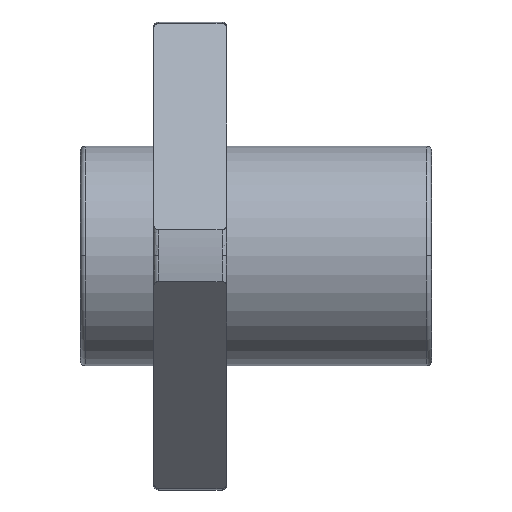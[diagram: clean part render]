
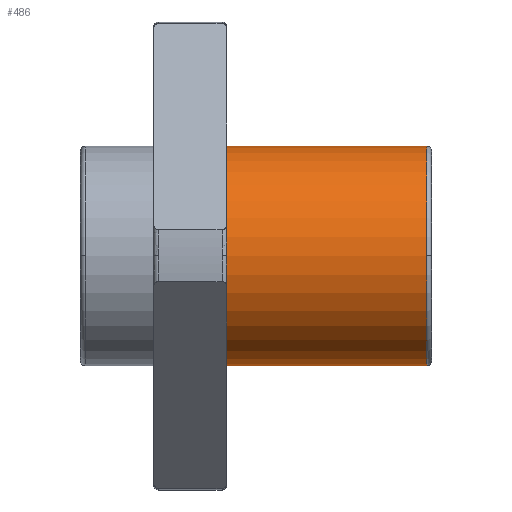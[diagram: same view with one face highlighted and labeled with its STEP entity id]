
A CAD part, top view. The second image highlights one B-rep face of the part: STEP entity #486.
In plain terms, the highlighted cylindrical face has radius 7.5 mm (diameter 15 mm), a partial arc.
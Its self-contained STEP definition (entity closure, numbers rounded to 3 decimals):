
#335 = TOROIDAL_SURFACE('',#336,7.18,0.32);
#336 = AXIS2_PLACEMENT_3D('',#337,#338,#339);
#337 = CARTESIAN_POINT('',(23.68,0.,0.));
#338 = DIRECTION('',(1.,0.,0.));
#339 = DIRECTION('',(0.,0.,-1.));
#347 = TOROIDAL_SURFACE('',#348,7.18,0.32);
#348 = AXIS2_PLACEMENT_3D('',#349,#350,#351);
#349 = CARTESIAN_POINT('',(23.68,0.,0.));
#350 = DIRECTION('',(1.,0.,0.));
#351 = DIRECTION('',(0.,0.,-1.));
#360 = VERTEX_POINT('',#361);
#361 = CARTESIAN_POINT('',(23.68,7.5,0.));
#376 = CYLINDRICAL_SURFACE('',#377,7.5);
#377 = AXIS2_PLACEMENT_3D('',#378,#379,#380);
#378 = CARTESIAN_POINT('',(16.84,0.,0.));
#379 = DIRECTION('',(1.,0.,0.));
#380 = DIRECTION('',(-0.,1.,0.));
#388 = EDGE_CURVE('',#360,#389,#391,.T.);
#389 = VERTEX_POINT('',#390);
#390 = CARTESIAN_POINT('',(23.68,0.,7.5));
#391 = SURFACE_CURVE('',#392,(#397,#404),.PCURVE_S1.);
#392 = CIRCLE('',#393,7.5);
#393 = AXIS2_PLACEMENT_3D('',#394,#395,#396);
#394 = CARTESIAN_POINT('',(23.68,0.,0.));
#395 = DIRECTION('',(1.,0.,0.));
#396 = DIRECTION('',(-0.,1.,0.));
#397 = PCURVE('',#335,#398);
#398 = DEFINITIONAL_REPRESENTATION('',(#399),#403);
#399 = LINE('',#400,#401);
#400 = CARTESIAN_POINT('',(1.571,0.));
#401 = VECTOR('',#402,1.);
#402 = DIRECTION('',(1.,0.));
#403 = ( GEOMETRIC_REPRESENTATION_CONTEXT(2) 
PARAMETRIC_REPRESENTATION_CONTEXT() REPRESENTATION_CONTEXT('2D SPACE',''
  ) );
#404 = PCURVE('',#405,#410);
#405 = CYLINDRICAL_SURFACE('',#406,7.5);
#406 = AXIS2_PLACEMENT_3D('',#407,#408,#409);
#407 = CARTESIAN_POINT('',(16.84,0.,0.));
#408 = DIRECTION('',(1.,0.,0.));
#409 = DIRECTION('',(-0.,1.,0.));
#410 = DEFINITIONAL_REPRESENTATION('',(#411),#415);
#411 = LINE('',#412,#413);
#412 = CARTESIAN_POINT('',(0.,6.84));
#413 = VECTOR('',#414,1.);
#414 = DIRECTION('',(1.,0.));
#415 = ( GEOMETRIC_REPRESENTATION_CONTEXT(2) 
PARAMETRIC_REPRESENTATION_CONTEXT() REPRESENTATION_CONTEXT('2D SPACE',''
  ) );
#486 = ADVANCED_FACE('',(#487),#405,.T.);
#487 = FACE_BOUND('',#488,.T.);
#488 = EDGE_LOOP('',(#489,#512,#541,#564,#586));
#489 = ORIENTED_EDGE('',*,*,#490,.F.);
#490 = EDGE_CURVE('',#491,#360,#493,.T.);
#491 = VERTEX_POINT('',#492);
#492 = CARTESIAN_POINT('',(10.,7.5,0.));
#493 = SURFACE_CURVE('',#494,(#498,#505),.PCURVE_S1.);
#494 = LINE('',#495,#496);
#495 = CARTESIAN_POINT('',(16.84,7.5,0.));
#496 = VECTOR('',#497,1.);
#497 = DIRECTION('',(1.,0.,0.));
#498 = PCURVE('',#405,#499);
#499 = DEFINITIONAL_REPRESENTATION('',(#500),#504);
#500 = LINE('',#501,#502);
#501 = CARTESIAN_POINT('',(0.,0.));
#502 = VECTOR('',#503,1.);
#503 = DIRECTION('',(0.,1.));
#504 = ( GEOMETRIC_REPRESENTATION_CONTEXT(2) 
PARAMETRIC_REPRESENTATION_CONTEXT() REPRESENTATION_CONTEXT('2D SPACE',''
  ) );
#505 = PCURVE('',#376,#506);
#506 = DEFINITIONAL_REPRESENTATION('',(#507),#511);
#507 = LINE('',#508,#509);
#508 = CARTESIAN_POINT('',(6.283,0.));
#509 = VECTOR('',#510,1.);
#510 = DIRECTION('',(0.,1.));
#511 = ( GEOMETRIC_REPRESENTATION_CONTEXT(2) 
PARAMETRIC_REPRESENTATION_CONTEXT() REPRESENTATION_CONTEXT('2D SPACE',''
  ) );
#512 = ORIENTED_EDGE('',*,*,#513,.T.);
#513 = EDGE_CURVE('',#491,#514,#516,.T.);
#514 = VERTEX_POINT('',#515);
#515 = CARTESIAN_POINT('',(10.,-7.5,0.));
#516 = SURFACE_CURVE('',#517,(#522,#529),.PCURVE_S1.);
#517 = CIRCLE('',#518,7.5);
#518 = AXIS2_PLACEMENT_3D('',#519,#520,#521);
#519 = CARTESIAN_POINT('',(10.,0.,0.));
#520 = DIRECTION('',(1.,0.,0.));
#521 = DIRECTION('',(-0.,1.,0.));
#522 = PCURVE('',#405,#523);
#523 = DEFINITIONAL_REPRESENTATION('',(#524),#528);
#524 = LINE('',#525,#526);
#525 = CARTESIAN_POINT('',(0.,-6.84));
#526 = VECTOR('',#527,1.);
#527 = DIRECTION('',(1.,0.));
#528 = ( GEOMETRIC_REPRESENTATION_CONTEXT(2) 
PARAMETRIC_REPRESENTATION_CONTEXT() REPRESENTATION_CONTEXT('2D SPACE',''
  ) );
#529 = PCURVE('',#530,#535);
#530 = PLANE('',#531);
#531 = AXIS2_PLACEMENT_3D('',#532,#533,#534);
#532 = CARTESIAN_POINT('',(10.,11.59,0.));
#533 = DIRECTION('',(1.,0.,0.));
#534 = DIRECTION('',(0.,1.,0.));
#535 = DEFINITIONAL_REPRESENTATION('',(#536),#540);
#536 = CIRCLE('',#537,7.5);
#537 = AXIS2_PLACEMENT_2D('',#538,#539);
#538 = CARTESIAN_POINT('',(-11.59,0.));
#539 = DIRECTION('',(1.,0.));
#540 = ( GEOMETRIC_REPRESENTATION_CONTEXT(2) 
PARAMETRIC_REPRESENTATION_CONTEXT() REPRESENTATION_CONTEXT('2D SPACE',''
  ) );
#541 = ORIENTED_EDGE('',*,*,#542,.F.);
#542 = EDGE_CURVE('',#543,#514,#545,.T.);
#543 = VERTEX_POINT('',#544);
#544 = CARTESIAN_POINT('',(23.68,-7.5,0.));
#545 = SURFACE_CURVE('',#546,(#550,#557),.PCURVE_S1.);
#546 = LINE('',#547,#548);
#547 = CARTESIAN_POINT('',(16.84,-7.5,0.));
#548 = VECTOR('',#549,1.);
#549 = DIRECTION('',(-1.,-0.,-0.));
#550 = PCURVE('',#405,#551);
#551 = DEFINITIONAL_REPRESENTATION('',(#552),#556);
#552 = LINE('',#553,#554);
#553 = CARTESIAN_POINT('',(3.142,0.));
#554 = VECTOR('',#555,1.);
#555 = DIRECTION('',(0.,-1.));
#556 = ( GEOMETRIC_REPRESENTATION_CONTEXT(2) 
PARAMETRIC_REPRESENTATION_CONTEXT() REPRESENTATION_CONTEXT('2D SPACE',''
  ) );
#557 = PCURVE('',#376,#558);
#558 = DEFINITIONAL_REPRESENTATION('',(#559),#563);
#559 = LINE('',#560,#561);
#560 = CARTESIAN_POINT('',(3.142,0.));
#561 = VECTOR('',#562,1.);
#562 = DIRECTION('',(0.,-1.));
#563 = ( GEOMETRIC_REPRESENTATION_CONTEXT(2) 
PARAMETRIC_REPRESENTATION_CONTEXT() REPRESENTATION_CONTEXT('2D SPACE',''
  ) );
#564 = ORIENTED_EDGE('',*,*,#565,.F.);
#565 = EDGE_CURVE('',#389,#543,#566,.T.);
#566 = SURFACE_CURVE('',#567,(#572,#579),.PCURVE_S1.);
#567 = CIRCLE('',#568,7.5);
#568 = AXIS2_PLACEMENT_3D('',#569,#570,#571);
#569 = CARTESIAN_POINT('',(23.68,0.,0.));
#570 = DIRECTION('',(1.,0.,0.));
#571 = DIRECTION('',(-0.,1.,0.));
#572 = PCURVE('',#405,#573);
#573 = DEFINITIONAL_REPRESENTATION('',(#574),#578);
#574 = LINE('',#575,#576);
#575 = CARTESIAN_POINT('',(0.,6.84));
#576 = VECTOR('',#577,1.);
#577 = DIRECTION('',(1.,0.));
#578 = ( GEOMETRIC_REPRESENTATION_CONTEXT(2) 
PARAMETRIC_REPRESENTATION_CONTEXT() REPRESENTATION_CONTEXT('2D SPACE',''
  ) );
#579 = PCURVE('',#347,#580);
#580 = DEFINITIONAL_REPRESENTATION('',(#581),#585);
#581 = LINE('',#582,#583);
#582 = CARTESIAN_POINT('',(1.571,0.));
#583 = VECTOR('',#584,1.);
#584 = DIRECTION('',(1.,0.));
#585 = ( GEOMETRIC_REPRESENTATION_CONTEXT(2) 
PARAMETRIC_REPRESENTATION_CONTEXT() REPRESENTATION_CONTEXT('2D SPACE',''
  ) );
#586 = ORIENTED_EDGE('',*,*,#388,.F.);
